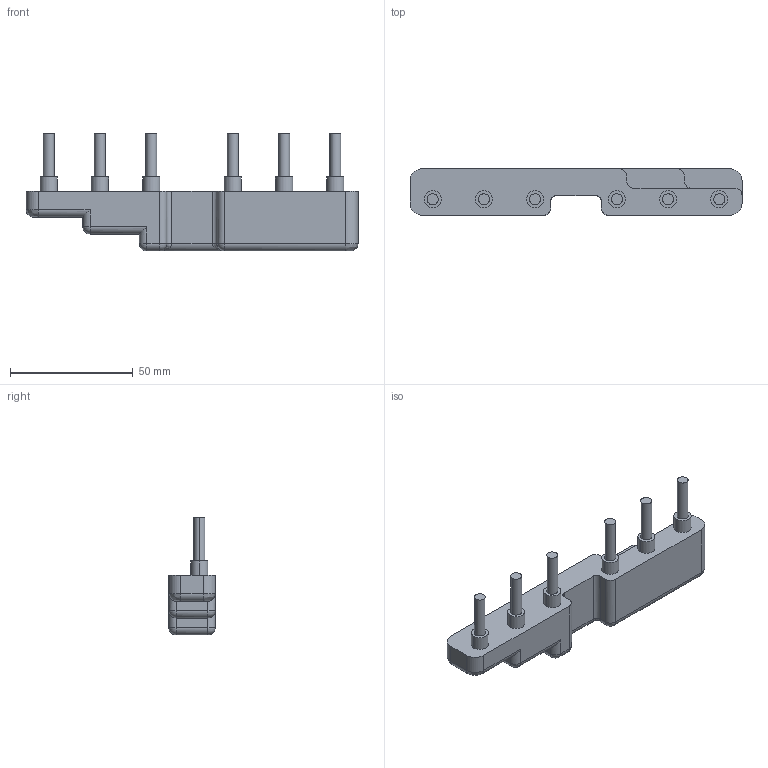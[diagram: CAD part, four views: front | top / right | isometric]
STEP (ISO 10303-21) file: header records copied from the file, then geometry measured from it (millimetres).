
FILE_DESCRIPTION((''),'2;1');
FILE_NAME('12C90086G01-300RWS80-R1_1_','2023-11-27T17:17:52',('design1'),(''),'CREO PARAMETRIC BY PTC INC, 2022284','CREO PARAMETRIC BY PTC INC, 2022284','');
FILE_SCHEMA(('CONFIG_CONTROL_DESIGN'));
Length unit declared in the file: inch
Products named in the file (1): 12C90086G01-300RWS80-R1_1_
Bounding box: 135.2 x 19 x 48.04 mm (x, y, z)
Volume: 47394.6 mm3; surface area: 13208.6 mm2
Topology: 1 solids, 1 shells, 98 faces, 249 edges, 157 vertices
Faces by surface type: cylinder 55, plane 31, bspline 6, sphere 6
Entity records: 3125 total; most frequent: CARTESIAN_POINT 699, DIRECTION 528, ORIENTED_EDGE 482, EDGE_CURVE 241, AXIS2_PLACEMENT_3D 211, VERTEX_POINT 157, CIRCLE 119, EDGE_LOOP 110
